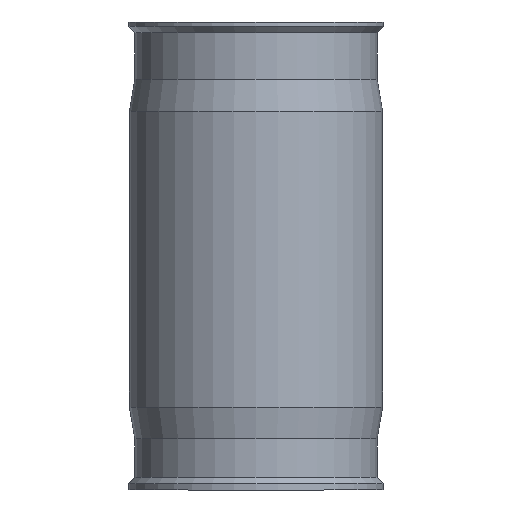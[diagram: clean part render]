
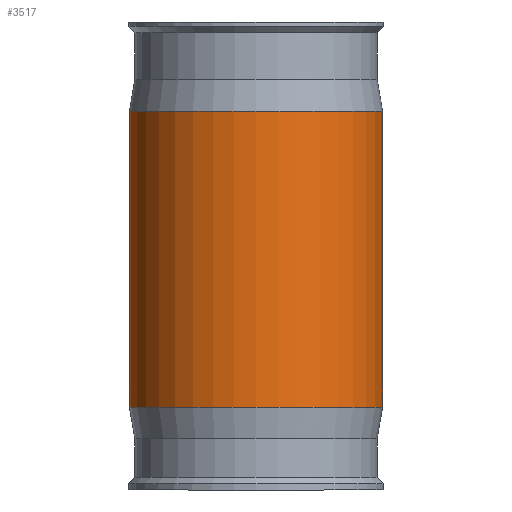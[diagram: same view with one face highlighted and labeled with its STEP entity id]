
A CAD part, front view. The second image highlights one B-rep face of the part: STEP entity #3517.
In plain terms, the highlighted cylindrical face has radius 59.5 mm (diameter 119 mm), a full revolution.
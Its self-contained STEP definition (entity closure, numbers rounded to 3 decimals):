
#2293=FACE_BOUND('',#5243,.T.);
#2294=FACE_BOUND('',#5244,.T.);
#2295=FACE_BOUND('',#5245,.T.);
#2437=CYLINDRICAL_SURFACE('',#15002,59.5);
#2802=CIRCLE('',#14999,59.5);
#2803=CIRCLE('',#15001,59.5);
#3517=ADVANCED_FACE('',(#2293,#2294,#2295),#2437,.T.);
#5243=EDGE_LOOP('',(#9394,#9395,#9396,#9397));
#5244=EDGE_LOOP('',(#9398));
#5245=EDGE_LOOP('',(#9399));
#5912=B_SPLINE_CURVE_WITH_KNOTS('',3,(#31347,#31348,#31349,#31350,#31351,
#31352,#31353,#31354,#31355,#31356),.UNSPECIFIED.,.F.,.F.,(4,2,2,2,4),(0.,
0.25,0.5,0.75,1.),.UNSPECIFIED.);
#5913=B_SPLINE_CURVE_WITH_KNOTS('',3,(#31409,#31410,#31411,#31412,#31413,
#31414,#31415,#31416,#31417,#31418),.UNSPECIFIED.,.F.,.F.,(4,2,2,2,4),(0.,
0.25,0.5,0.75,1.),.UNSPECIFIED.);
#9394=ORIENTED_EDGE('',*,*,#12326,.T.);
#9395=ORIENTED_EDGE('',*,*,#12303,.F.);
#9396=ORIENTED_EDGE('',*,*,#12327,.T.);
#9397=ORIENTED_EDGE('',*,*,#12305,.F.);
#9398=ORIENTED_EDGE('',*,*,#12329,.T.);
#9399=ORIENTED_EDGE('',*,*,#12328,.T.);
#10555=VERTEX_POINT('',#31277);
#10556=VERTEX_POINT('',#31278);
#10557=VERTEX_POINT('',#31280);
#10558=VERTEX_POINT('',#31285);
#10579=VERTEX_POINT('',#31472);
#10580=VERTEX_POINT('',#31475);
#12303=EDGE_CURVE('',#10556,#10557,#13140,.T.);
#12305=EDGE_CURVE('',#10558,#10555,#13141,.T.);
#12326=EDGE_CURVE('',#10558,#10557,#5912,.T.);
#12327=EDGE_CURVE('',#10556,#10555,#5913,.T.);
#12328=EDGE_CURVE('',#10579,#10579,#2802,.T.);
#12329=EDGE_CURVE('',#10580,#10580,#2803,.T.);
#13140=LINE('',#31279,#14089);
#13141=LINE('',#31286,#14090);
#14089=VECTOR('',#17696,1.);
#14090=VECTOR('',#17697,1.);
#14999=AXIS2_PLACEMENT_3D('',#31471,#17778,#17779);
#15001=AXIS2_PLACEMENT_3D('',#31474,#17782,#17783);
#15002=AXIS2_PLACEMENT_3D('',#31476,#17784,#17785);
#17696=DIRECTION('',(0.,0.,-1.));
#17697=DIRECTION('',(0.,0.,1.));
#17778=DIRECTION('',(0.,0.,-1.));
#17779=DIRECTION('',(0.,-1.,0.));
#17782=DIRECTION('',(0.,0.,1.));
#17783=DIRECTION('',(0.,1.,0.));
#17784=DIRECTION('',(0.,0.,1.));
#17785=DIRECTION('',(0.,1.,0.));
#31277=CARTESIAN_POINT('',(-13.721,12.9,153.259));
#31278=CARTESIAN_POINT('',(13.69,12.9,153.26));
#31279=CARTESIAN_POINT('',(13.69,12.9,157.131));
#31280=CARTESIAN_POINT('',(13.69,12.9,132.742));
#31285=CARTESIAN_POINT('',(-13.721,12.9,132.741));
#31286=CARTESIAN_POINT('',(-13.721,12.9,1059.158));
#31347=CARTESIAN_POINT('',(-13.721,12.9,132.741));
#31348=CARTESIAN_POINT('',(-12.115,13.28,130.647));
#31349=CARTESIAN_POINT('',(-10.022,13.701,128.95));
#31350=CARTESIAN_POINT('',(-5.315,14.311,126.643));
#31351=CARTESIAN_POINT('',(-2.664,14.5,126.027));
#31352=CARTESIAN_POINT('',(2.614,14.5,126.025));
#31353=CARTESIAN_POINT('',(5.257,14.315,126.63));
#31354=CARTESIAN_POINT('',(10.021,13.697,128.962));
#31355=CARTESIAN_POINT('',(12.099,13.277,130.666));
#31356=CARTESIAN_POINT('',(13.69,12.9,132.742));
#31409=CARTESIAN_POINT('',(13.69,12.9,153.26));
#31410=CARTESIAN_POINT('',(12.086,13.28,155.351));
#31411=CARTESIAN_POINT('',(9.999,13.699,157.046));
#31412=CARTESIAN_POINT('',(5.293,14.31,159.353));
#31413=CARTESIAN_POINT('',(2.647,14.5,159.972));
#31414=CARTESIAN_POINT('',(-2.663,14.5,159.976));
#31415=CARTESIAN_POINT('',(-5.316,14.311,159.359));
#31416=CARTESIAN_POINT('',(-10.047,13.697,157.036));
#31417=CARTESIAN_POINT('',(-12.13,13.277,155.332));
#31418=CARTESIAN_POINT('',(-13.721,12.9,153.259));
#31471=CARTESIAN_POINT('',(-0.016,-45.,230.758));
#31472=CARTESIAN_POINT('',(-0.016,-104.5,230.758));
#31474=CARTESIAN_POINT('',(-0.016,-45.,91.758));
#31475=CARTESIAN_POINT('',(-0.016,14.5,91.758));
#31476=CARTESIAN_POINT('',(-0.016,-45.,1059.158));
